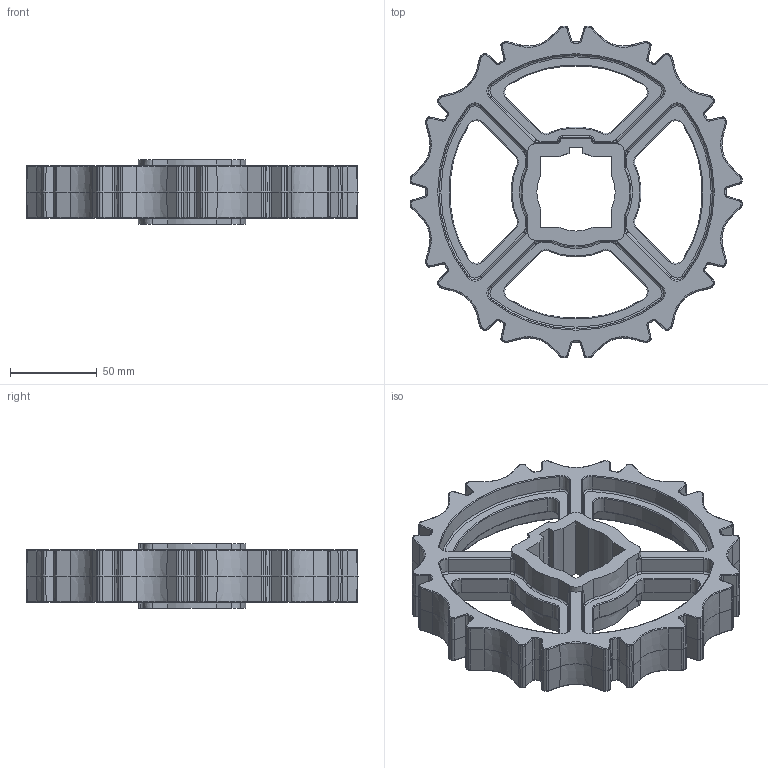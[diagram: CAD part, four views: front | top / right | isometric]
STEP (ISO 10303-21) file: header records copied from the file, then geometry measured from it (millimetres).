
FILE_DESCRIPTION(/* description */ (''),/* implementation_level */ '2;1');
FILE_NAME(/* name */ 'HS-100A-HD-12T.stp',/* time_stamp */ '2023-11-29T14:00:04+08:00',/* author */ (''),/* organization */ (''),/* preprocessor_version */ 'ST-DEVELOPER v15',/* originating_system */ 'SIEMENS PLM Software NX 8.5',/* authorisation */ '');
FILE_SCHEMA (('AP203_CONFIGURATION_CONTROLLED_3D_DESIGN_OF_MECHANICAL_PARTS_AND_ASSEMBLIES_MIM_LF { 1 0 10303 403 2 1 2}'));
Length unit declared in the file: millimetre
Products named in the file (1): Admi4B9C6F70tqlp
Bounding box: 190.85 x 190.85 x 37 mm (x, y, z)
Volume: 342719 mm3; surface area: 85573.7 mm2
Topology: 1 solids, 1 shells, 1046 faces, 2418 edges, 1376 vertices
Faces by surface type: cylinder 365, plane 237, torus 210, cone 134, bspline 100
Entity records: 30942 total; most frequent: CARTESIAN_POINT 6888, DIRECTION 5490, ORIENTED_EDGE 4840, EDGE_CURVE 2420, AXIS2_PLACEMENT_3D 2210, VERTEX_POINT 1380, LINE 1070, VECTOR 1070
